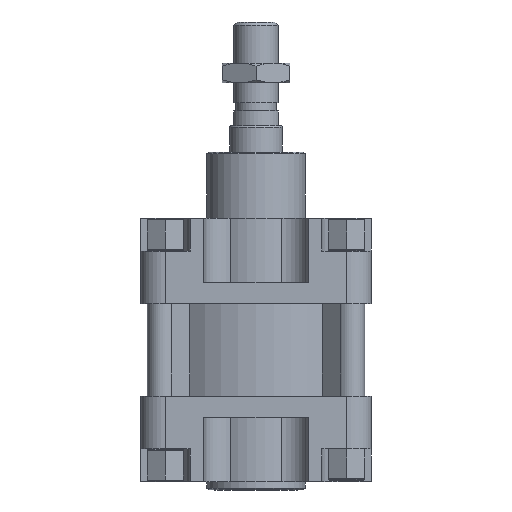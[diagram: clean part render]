
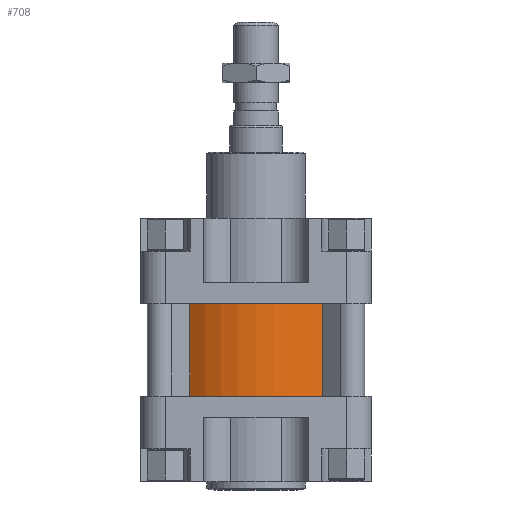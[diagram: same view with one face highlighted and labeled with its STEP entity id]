
A CAD part, front view. The second image highlights one B-rep face of the part: STEP entity #708.
In plain terms, the highlighted cylindrical face has radius 66 mm (diameter 132 mm), a partial arc.
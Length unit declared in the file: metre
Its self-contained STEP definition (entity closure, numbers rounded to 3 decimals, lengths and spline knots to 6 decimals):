
#708=ADVANCED_FACE('0:63',(#1948),#1949,.T.);
#1948=FACE_OUTER_BOUND('',#3817,.T.);
#1949=CYLINDRICAL_SURFACE('',#3818,0.066);
#3817=EDGE_LOOP('',(#5734,#5735,#5736,#5737));
#3818=AXIS2_PLACEMENT_3D('',#5738,#5739,#5740);
#5734=ORIENTED_EDGE('',*,*,#10872,.T.);
#5735=ORIENTED_EDGE('',*,*,#10873,.F.);
#5736=ORIENTED_EDGE('',*,*,#10874,.T.);
#5737=ORIENTED_EDGE('',*,*,#10869,.T.);
#5738=CARTESIAN_POINT('',(0.,0.,-0.60075));
#5739=DIRECTION('',(0.,0.,-1.0));
#5740=DIRECTION('',(-0.61,-0.792,0.));
#10869=EDGE_CURVE('0:192',#14148,#14146,#14149,.T.);
#10872=EDGE_CURVE('0:198',#14146,#14152,#14153,.T.);
#10873=EDGE_CURVE('0:201',#14154,#14152,#14155,.T.);
#10874=EDGE_CURVE('0:204',#14154,#14148,#14156,.T.);
#14146=VERTEX_POINT('',#19984);
#14148=VERTEX_POINT('',#19987);
#14149=LINE('',#19988,#19989);
#14152=VERTEX_POINT('',#19993);
#14153=CIRCLE('',#19994,0.066);
#14154=VERTEX_POINT('',#19995);
#14155=LINE('',#19996,#19997);
#14156=CIRCLE('',#19998,0.066);
#19984=CARTESIAN_POINT('',(0.040301,-0.052267,-0.54475));
#19987=CARTESIAN_POINT('',(0.040301,-0.052267,-0.60075));
#19988=CARTESIAN_POINT('',(0.040301,-0.052267,-0.60075));
#19989=VECTOR('',#28037,1.0);
#19993=CARTESIAN_POINT('',(-0.04027,-0.052291,-0.54475));
#19994=AXIS2_PLACEMENT_3D('',#28039,#28040,#28041);
#19995=CARTESIAN_POINT('',(-0.04027,-0.052291,-0.60075));
#19996=CARTESIAN_POINT('',(-0.04027,-0.052291,-0.60075));
#19997=VECTOR('',#28042,1.0);
#19998=AXIS2_PLACEMENT_3D('',#28043,#28044,#28045);
#28037=DIRECTION('',(0.0,0.,1.0));
#28039=CARTESIAN_POINT('',(0.,0.,-0.54475));
#28040=DIRECTION('',(0.,0.,-1.0));
#28041=DIRECTION('',(-0.61,-0.792,0.));
#28042=DIRECTION('',(0.0,0.,1.0));
#28043=CARTESIAN_POINT('',(0.,0.,-0.60075));
#28044=DIRECTION('',(0.,0.,1.0));
#28045=DIRECTION('',(-0.61,-0.792,0.));
